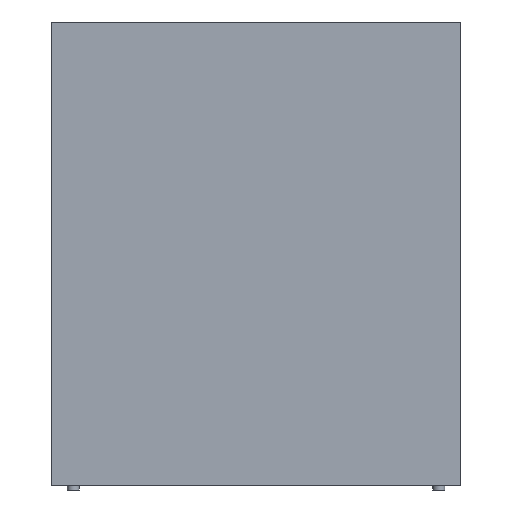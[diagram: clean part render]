
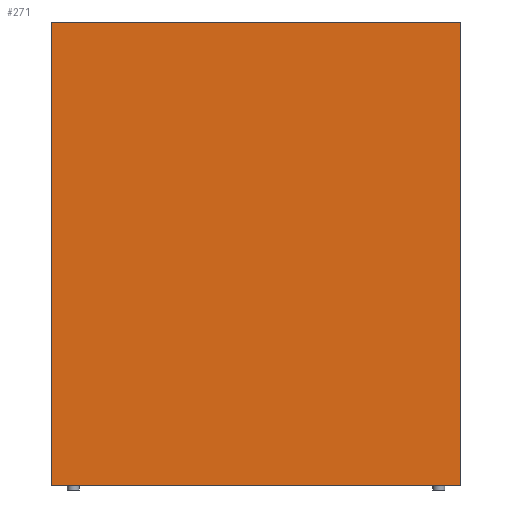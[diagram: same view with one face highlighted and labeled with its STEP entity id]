
A CAD part, front view. The second image highlights one B-rep face of the part: STEP entity #271.
In plain terms, the highlighted planar face has unit normal (0, -1, 0).
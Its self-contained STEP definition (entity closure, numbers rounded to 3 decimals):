
#55 = EDGE_CURVE('',#56,#58,#60,.T.);
#56 = VERTEX_POINT('',#57);
#57 = CARTESIAN_POINT('',(-2.25,-26.65,0.5));
#58 = VERTEX_POINT('',#59);
#59 = CARTESIAN_POINT('',(-2.25,-26.65,48.));
#60 = SURFACE_CURVE('',#61,(#65,#77),.PCURVE_S1.);
#61 = LINE('',#62,#63);
#62 = CARTESIAN_POINT('',(-2.25,-26.65,0.5));
#63 = VECTOR('',#64,1.);
#64 = DIRECTION('',(0.,0.,1.));
#65 = PCURVE('',#66,#71);
#66 = PLANE('',#67);
#67 = AXIS2_PLACEMENT_3D('',#68,#69,#70);
#68 = CARTESIAN_POINT('',(-2.25,-26.65,0.5));
#69 = DIRECTION('',(1.,0.,-0.));
#70 = DIRECTION('',(0.,0.,1.));
#71 = DEFINITIONAL_REPRESENTATION('',(#72),#76);
#72 = LINE('',#73,#74);
#73 = CARTESIAN_POINT('',(0.,0.));
#74 = VECTOR('',#75,1.);
#75 = DIRECTION('',(1.,0.));
#76 = ( GEOMETRIC_REPRESENTATION_CONTEXT(2) 
PARAMETRIC_REPRESENTATION_CONTEXT() REPRESENTATION_CONTEXT('2D SPACE',''
  ) );
#77 = PCURVE('',#78,#83);
#78 = PLANE('',#79);
#79 = AXIS2_PLACEMENT_3D('',#80,#81,#82);
#80 = CARTESIAN_POINT('',(-2.25,-26.65,0.5));
#81 = DIRECTION('',(-0.,1.,0.));
#82 = DIRECTION('',(0.,0.,1.));
#83 = DEFINITIONAL_REPRESENTATION('',(#84),#88);
#84 = LINE('',#85,#86);
#85 = CARTESIAN_POINT('',(0.,0.));
#86 = VECTOR('',#87,1.);
#87 = DIRECTION('',(1.,0.));
#88 = ( GEOMETRIC_REPRESENTATION_CONTEXT(2) 
PARAMETRIC_REPRESENTATION_CONTEXT() REPRESENTATION_CONTEXT('2D SPACE',''
  ) );
#106 = PLANE('',#107);
#107 = AXIS2_PLACEMENT_3D('',#108,#109,#110);
#108 = CARTESIAN_POINT('',(-2.25,-26.65,0.5));
#109 = DIRECTION('',(0.,0.,1.));
#110 = DIRECTION('',(1.,0.,-0.));
#160 = PLANE('',#161);
#161 = AXIS2_PLACEMENT_3D('',#162,#163,#164);
#162 = CARTESIAN_POINT('',(-2.25,-26.65,48.));
#163 = DIRECTION('',(0.,0.,1.));
#164 = DIRECTION('',(1.,0.,-0.));
#175 = EDGE_CURVE('',#176,#178,#180,.T.);
#176 = VERTEX_POINT('',#177);
#177 = CARTESIAN_POINT('',(39.75,-26.65,0.5));
#178 = VERTEX_POINT('',#179);
#179 = CARTESIAN_POINT('',(39.75,-26.65,48.));
#180 = SURFACE_CURVE('',#181,(#185,#197),.PCURVE_S1.);
#181 = LINE('',#182,#183);
#182 = CARTESIAN_POINT('',(39.75,-26.65,0.5));
#183 = VECTOR('',#184,1.);
#184 = DIRECTION('',(0.,0.,1.));
#185 = PCURVE('',#186,#191);
#186 = PLANE('',#187);
#187 = AXIS2_PLACEMENT_3D('',#188,#189,#190);
#188 = CARTESIAN_POINT('',(39.75,-26.65,0.5));
#189 = DIRECTION('',(1.,0.,-0.));
#190 = DIRECTION('',(0.,0.,1.));
#191 = DEFINITIONAL_REPRESENTATION('',(#192),#196);
#192 = LINE('',#193,#194);
#193 = CARTESIAN_POINT('',(0.,0.));
#194 = VECTOR('',#195,1.);
#195 = DIRECTION('',(1.,0.));
#196 = ( GEOMETRIC_REPRESENTATION_CONTEXT(2) 
PARAMETRIC_REPRESENTATION_CONTEXT() REPRESENTATION_CONTEXT('2D SPACE',''
  ) );
#197 = PCURVE('',#78,#198);
#198 = DEFINITIONAL_REPRESENTATION('',(#199),#203);
#199 = LINE('',#200,#201);
#200 = CARTESIAN_POINT('',(0.,42.));
#201 = VECTOR('',#202,1.);
#202 = DIRECTION('',(1.,0.));
#203 = ( GEOMETRIC_REPRESENTATION_CONTEXT(2) 
PARAMETRIC_REPRESENTATION_CONTEXT() REPRESENTATION_CONTEXT('2D SPACE',''
  ) );
#271 = ADVANCED_FACE('',(#272),#78,.F.);
#272 = FACE_BOUND('',#273,.F.);
#273 = EDGE_LOOP('',(#274,#295,#296,#317));
#274 = ORIENTED_EDGE('',*,*,#275,.F.);
#275 = EDGE_CURVE('',#56,#176,#276,.T.);
#276 = SURFACE_CURVE('',#277,(#281,#288),.PCURVE_S1.);
#277 = LINE('',#278,#279);
#278 = CARTESIAN_POINT('',(-2.25,-26.65,0.5));
#279 = VECTOR('',#280,1.);
#280 = DIRECTION('',(1.,0.,-0.));
#281 = PCURVE('',#78,#282);
#282 = DEFINITIONAL_REPRESENTATION('',(#283),#287);
#283 = LINE('',#284,#285);
#284 = CARTESIAN_POINT('',(0.,0.));
#285 = VECTOR('',#286,1.);
#286 = DIRECTION('',(0.,1.));
#287 = ( GEOMETRIC_REPRESENTATION_CONTEXT(2) 
PARAMETRIC_REPRESENTATION_CONTEXT() REPRESENTATION_CONTEXT('2D SPACE',''
  ) );
#288 = PCURVE('',#106,#289);
#289 = DEFINITIONAL_REPRESENTATION('',(#290),#294);
#290 = LINE('',#291,#292);
#291 = CARTESIAN_POINT('',(0.,0.));
#292 = VECTOR('',#293,1.);
#293 = DIRECTION('',(1.,0.));
#294 = ( GEOMETRIC_REPRESENTATION_CONTEXT(2) 
PARAMETRIC_REPRESENTATION_CONTEXT() REPRESENTATION_CONTEXT('2D SPACE',''
  ) );
#295 = ORIENTED_EDGE('',*,*,#55,.T.);
#296 = ORIENTED_EDGE('',*,*,#297,.T.);
#297 = EDGE_CURVE('',#58,#178,#298,.T.);
#298 = SURFACE_CURVE('',#299,(#303,#310),.PCURVE_S1.);
#299 = LINE('',#300,#301);
#300 = CARTESIAN_POINT('',(-2.25,-26.65,48.));
#301 = VECTOR('',#302,1.);
#302 = DIRECTION('',(1.,0.,-0.));
#303 = PCURVE('',#78,#304);
#304 = DEFINITIONAL_REPRESENTATION('',(#305),#309);
#305 = LINE('',#306,#307);
#306 = CARTESIAN_POINT('',(47.5,0.));
#307 = VECTOR('',#308,1.);
#308 = DIRECTION('',(0.,1.));
#309 = ( GEOMETRIC_REPRESENTATION_CONTEXT(2) 
PARAMETRIC_REPRESENTATION_CONTEXT() REPRESENTATION_CONTEXT('2D SPACE',''
  ) );
#310 = PCURVE('',#160,#311);
#311 = DEFINITIONAL_REPRESENTATION('',(#312),#316);
#312 = LINE('',#313,#314);
#313 = CARTESIAN_POINT('',(0.,0.));
#314 = VECTOR('',#315,1.);
#315 = DIRECTION('',(1.,0.));
#316 = ( GEOMETRIC_REPRESENTATION_CONTEXT(2) 
PARAMETRIC_REPRESENTATION_CONTEXT() REPRESENTATION_CONTEXT('2D SPACE',''
  ) );
#317 = ORIENTED_EDGE('',*,*,#175,.F.);
